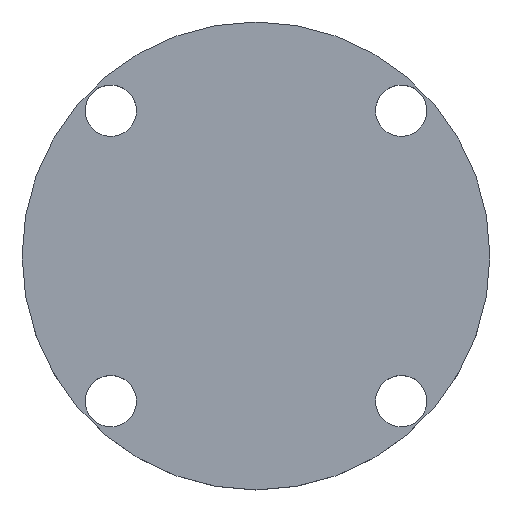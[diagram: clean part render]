
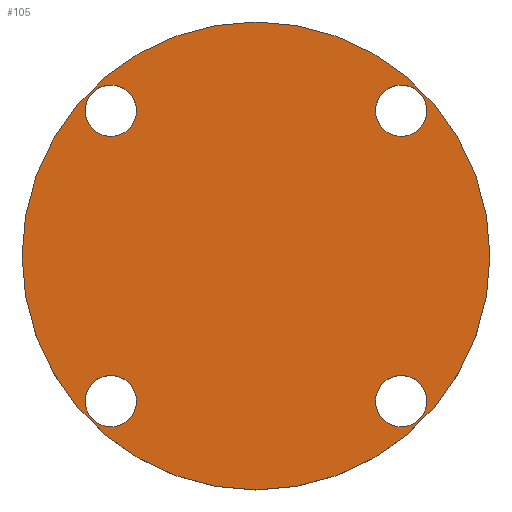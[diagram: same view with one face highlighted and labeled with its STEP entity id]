
A CAD part, top view. The second image highlights one B-rep face of the part: STEP entity #105.
In plain terms, the highlighted planar face has unit normal (0, 0, 1).
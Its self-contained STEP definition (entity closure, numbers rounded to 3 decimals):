
#21 = EDGE_CURVE('',#22,#22,#24,.T.);
#22 = VERTEX_POINT('',#23);
#23 = CARTESIAN_POINT('',(41.,0.,10.));
#24 = SURFACE_CURVE('',#25,(#30,#42),.PCURVE_S1.);
#25 = CIRCLE('',#26,41.);
#26 = AXIS2_PLACEMENT_3D('',#27,#28,#29);
#27 = CARTESIAN_POINT('',(0.,0.,10.));
#28 = DIRECTION('',(0.,0.,1.));
#29 = DIRECTION('',(1.,0.,-0.));
#30 = PCURVE('',#31,#36);
#31 = CYLINDRICAL_SURFACE('',#32,41.);
#32 = AXIS2_PLACEMENT_3D('',#33,#34,#35);
#33 = CARTESIAN_POINT('',(0.,0.,0.));
#34 = DIRECTION('',(0.,0.,1.));
#35 = DIRECTION('',(1.,0.,-0.));
#36 = DEFINITIONAL_REPRESENTATION('',(#37),#41);
#37 = LINE('',#38,#39);
#38 = CARTESIAN_POINT('',(0.,10.));
#39 = VECTOR('',#40,1.);
#40 = DIRECTION('',(1.,0.));
#41 = ( GEOMETRIC_REPRESENTATION_CONTEXT(2) 
PARAMETRIC_REPRESENTATION_CONTEXT() REPRESENTATION_CONTEXT('2D SPACE',''
  ) );
#42 = PCURVE('',#43,#48);
#43 = PLANE('',#44);
#44 = AXIS2_PLACEMENT_3D('',#45,#46,#47);
#45 = CARTESIAN_POINT('',(0.,0.,10.));
#46 = DIRECTION('',(0.,0.,1.));
#47 = DIRECTION('',(1.,0.,-0.));
#48 = DEFINITIONAL_REPRESENTATION('',(#49),#53);
#49 = CIRCLE('',#50,41.);
#50 = AXIS2_PLACEMENT_2D('',#51,#52);
#51 = CARTESIAN_POINT('',(0.,0.));
#52 = DIRECTION('',(1.,0.));
#53 = ( GEOMETRIC_REPRESENTATION_CONTEXT(2) 
PARAMETRIC_REPRESENTATION_CONTEXT() REPRESENTATION_CONTEXT('2D SPACE',''
  ) );
#105 = ADVANCED_FACE('',(#106,#109,#140,#171,#202),#43,.T.);
#106 = FACE_BOUND('',#107,.T.);
#107 = EDGE_LOOP('',(#108));
#108 = ORIENTED_EDGE('',*,*,#21,.T.);
#109 = FACE_BOUND('',#110,.T.);
#110 = EDGE_LOOP('',(#111));
#111 = ORIENTED_EDGE('',*,*,#112,.F.);
#112 = EDGE_CURVE('',#113,#113,#115,.T.);
#113 = VERTEX_POINT('',#114);
#114 = CARTESIAN_POINT('',(-20.956,-25.456,10.));
#115 = SURFACE_CURVE('',#116,(#121,#128),.PCURVE_S1.);
#116 = CIRCLE('',#117,4.5);
#117 = AXIS2_PLACEMENT_3D('',#118,#119,#120);
#118 = CARTESIAN_POINT('',(-25.456,-25.456,10.));
#119 = DIRECTION('',(0.,0.,1.));
#120 = DIRECTION('',(1.,0.,-0.));
#121 = PCURVE('',#43,#122);
#122 = DEFINITIONAL_REPRESENTATION('',(#123),#127);
#123 = CIRCLE('',#124,4.5);
#124 = AXIS2_PLACEMENT_2D('',#125,#126);
#125 = CARTESIAN_POINT('',(-25.456,-25.456));
#126 = DIRECTION('',(1.,0.));
#127 = ( GEOMETRIC_REPRESENTATION_CONTEXT(2) 
PARAMETRIC_REPRESENTATION_CONTEXT() REPRESENTATION_CONTEXT('2D SPACE',''
  ) );
#128 = PCURVE('',#129,#134);
#129 = CYLINDRICAL_SURFACE('',#130,4.5);
#130 = AXIS2_PLACEMENT_3D('',#131,#132,#133);
#131 = CARTESIAN_POINT('',(-25.456,-25.456,-15.));
#132 = DIRECTION('',(0.,0.,1.));
#133 = DIRECTION('',(1.,0.,-0.));
#134 = DEFINITIONAL_REPRESENTATION('',(#135),#139);
#135 = LINE('',#136,#137);
#136 = CARTESIAN_POINT('',(0.,25.));
#137 = VECTOR('',#138,1.);
#138 = DIRECTION('',(1.,0.));
#139 = ( GEOMETRIC_REPRESENTATION_CONTEXT(2) 
PARAMETRIC_REPRESENTATION_CONTEXT() REPRESENTATION_CONTEXT('2D SPACE',''
  ) );
#140 = FACE_BOUND('',#141,.T.);
#141 = EDGE_LOOP('',(#142));
#142 = ORIENTED_EDGE('',*,*,#143,.F.);
#143 = EDGE_CURVE('',#144,#144,#146,.T.);
#144 = VERTEX_POINT('',#145);
#145 = CARTESIAN_POINT('',(29.956,-25.456,10.));
#146 = SURFACE_CURVE('',#147,(#152,#159),.PCURVE_S1.);
#147 = CIRCLE('',#148,4.5);
#148 = AXIS2_PLACEMENT_3D('',#149,#150,#151);
#149 = CARTESIAN_POINT('',(25.456,-25.456,10.));
#150 = DIRECTION('',(0.,0.,1.));
#151 = DIRECTION('',(1.,0.,-0.));
#152 = PCURVE('',#43,#153);
#153 = DEFINITIONAL_REPRESENTATION('',(#154),#158);
#154 = CIRCLE('',#155,4.5);
#155 = AXIS2_PLACEMENT_2D('',#156,#157);
#156 = CARTESIAN_POINT('',(25.456,-25.456));
#157 = DIRECTION('',(1.,0.));
#158 = ( GEOMETRIC_REPRESENTATION_CONTEXT(2) 
PARAMETRIC_REPRESENTATION_CONTEXT() REPRESENTATION_CONTEXT('2D SPACE',''
  ) );
#159 = PCURVE('',#160,#165);
#160 = CYLINDRICAL_SURFACE('',#161,4.5);
#161 = AXIS2_PLACEMENT_3D('',#162,#163,#164);
#162 = CARTESIAN_POINT('',(25.456,-25.456,-15.));
#163 = DIRECTION('',(0.,0.,1.));
#164 = DIRECTION('',(1.,0.,-0.));
#165 = DEFINITIONAL_REPRESENTATION('',(#166),#170);
#166 = LINE('',#167,#168);
#167 = CARTESIAN_POINT('',(0.,25.));
#168 = VECTOR('',#169,1.);
#169 = DIRECTION('',(1.,0.));
#170 = ( GEOMETRIC_REPRESENTATION_CONTEXT(2) 
PARAMETRIC_REPRESENTATION_CONTEXT() REPRESENTATION_CONTEXT('2D SPACE',''
  ) );
#171 = FACE_BOUND('',#172,.T.);
#172 = EDGE_LOOP('',(#173));
#173 = ORIENTED_EDGE('',*,*,#174,.F.);
#174 = EDGE_CURVE('',#175,#175,#177,.T.);
#175 = VERTEX_POINT('',#176);
#176 = CARTESIAN_POINT('',(-20.956,25.456,10.));
#177 = SURFACE_CURVE('',#178,(#183,#190),.PCURVE_S1.);
#178 = CIRCLE('',#179,4.5);
#179 = AXIS2_PLACEMENT_3D('',#180,#181,#182);
#180 = CARTESIAN_POINT('',(-25.456,25.456,10.));
#181 = DIRECTION('',(0.,0.,1.));
#182 = DIRECTION('',(1.,0.,-0.));
#183 = PCURVE('',#43,#184);
#184 = DEFINITIONAL_REPRESENTATION('',(#185),#189);
#185 = CIRCLE('',#186,4.5);
#186 = AXIS2_PLACEMENT_2D('',#187,#188);
#187 = CARTESIAN_POINT('',(-25.456,25.456));
#188 = DIRECTION('',(1.,0.));
#189 = ( GEOMETRIC_REPRESENTATION_CONTEXT(2) 
PARAMETRIC_REPRESENTATION_CONTEXT() REPRESENTATION_CONTEXT('2D SPACE',''
  ) );
#190 = PCURVE('',#191,#196);
#191 = CYLINDRICAL_SURFACE('',#192,4.5);
#192 = AXIS2_PLACEMENT_3D('',#193,#194,#195);
#193 = CARTESIAN_POINT('',(-25.456,25.456,-15.));
#194 = DIRECTION('',(0.,0.,1.));
#195 = DIRECTION('',(1.,0.,-0.));
#196 = DEFINITIONAL_REPRESENTATION('',(#197),#201);
#197 = LINE('',#198,#199);
#198 = CARTESIAN_POINT('',(0.,25.));
#199 = VECTOR('',#200,1.);
#200 = DIRECTION('',(1.,0.));
#201 = ( GEOMETRIC_REPRESENTATION_CONTEXT(2) 
PARAMETRIC_REPRESENTATION_CONTEXT() REPRESENTATION_CONTEXT('2D SPACE',''
  ) );
#202 = FACE_BOUND('',#203,.T.);
#203 = EDGE_LOOP('',(#204));
#204 = ORIENTED_EDGE('',*,*,#205,.F.);
#205 = EDGE_CURVE('',#206,#206,#208,.T.);
#206 = VERTEX_POINT('',#207);
#207 = CARTESIAN_POINT('',(29.956,25.456,10.));
#208 = SURFACE_CURVE('',#209,(#214,#221),.PCURVE_S1.);
#209 = CIRCLE('',#210,4.5);
#210 = AXIS2_PLACEMENT_3D('',#211,#212,#213);
#211 = CARTESIAN_POINT('',(25.456,25.456,10.));
#212 = DIRECTION('',(0.,0.,1.));
#213 = DIRECTION('',(1.,0.,-0.));
#214 = PCURVE('',#43,#215);
#215 = DEFINITIONAL_REPRESENTATION('',(#216),#220);
#216 = CIRCLE('',#217,4.5);
#217 = AXIS2_PLACEMENT_2D('',#218,#219);
#218 = CARTESIAN_POINT('',(25.456,25.456));
#219 = DIRECTION('',(1.,0.));
#220 = ( GEOMETRIC_REPRESENTATION_CONTEXT(2) 
PARAMETRIC_REPRESENTATION_CONTEXT() REPRESENTATION_CONTEXT('2D SPACE',''
  ) );
#221 = PCURVE('',#222,#227);
#222 = CYLINDRICAL_SURFACE('',#223,4.5);
#223 = AXIS2_PLACEMENT_3D('',#224,#225,#226);
#224 = CARTESIAN_POINT('',(25.456,25.456,-15.));
#225 = DIRECTION('',(0.,0.,1.));
#226 = DIRECTION('',(1.,0.,-0.));
#227 = DEFINITIONAL_REPRESENTATION('',(#228),#232);
#228 = LINE('',#229,#230);
#229 = CARTESIAN_POINT('',(0.,25.));
#230 = VECTOR('',#231,1.);
#231 = DIRECTION('',(1.,0.));
#232 = ( GEOMETRIC_REPRESENTATION_CONTEXT(2) 
PARAMETRIC_REPRESENTATION_CONTEXT() REPRESENTATION_CONTEXT('2D SPACE',''
  ) );
